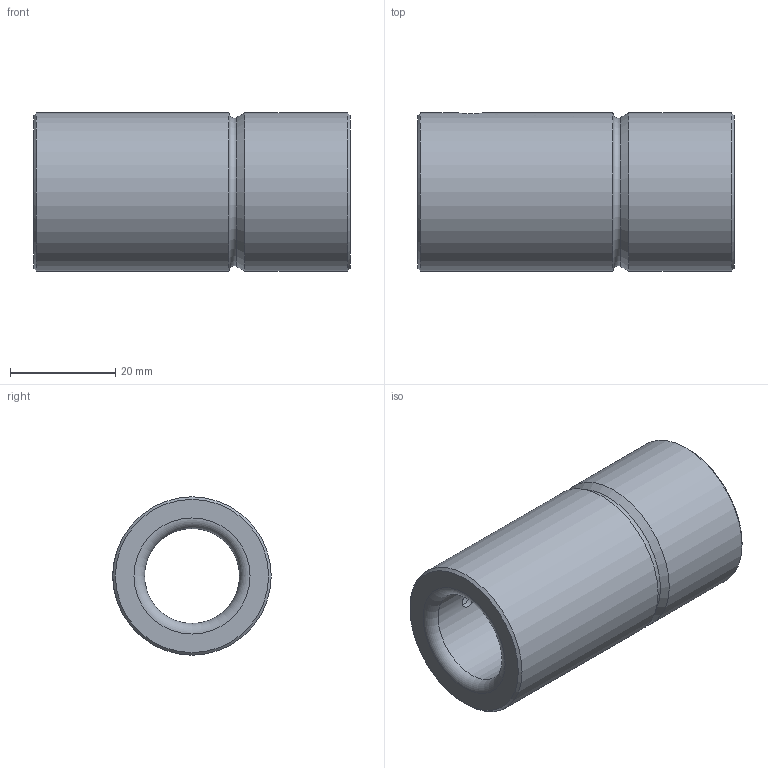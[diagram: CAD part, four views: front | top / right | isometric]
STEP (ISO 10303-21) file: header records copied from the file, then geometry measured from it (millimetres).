
FILE_DESCRIPTION( ( 'STEP AP214' ), '1' );
FILE_NAME( 'p:/temp/worker_27/temp/exporttempdir_1480_351_UcH08/format_0/WZ 4068 18 x 60.stp', '2020-11-21T19:59:24', ( 'License CC BY-ND 4.0' ), ( 'CADENAS' ), ' ', 'PARTsolutions', ' ' );
FILE_SCHEMA( ( 'AUTOMOTIVE_DESIGN { 1 0 10303 214 1 1 1 1 }' ) );
Length unit declared in the file: millimetre
Products named in the file (1): _WZ 4068 18 x 60
Bounding box: 60 x 30.04 x 30.04 mm (x, y, z)
Volume: 25337.5 mm3; surface area: 10145.8 mm2
Topology: 1 solids, 1 shells, 16 faces, 29 edges, 17 vertices
Faces by surface type: cylinder 6, cone 4, plane 4, torus 2
Full cylindrical faces by diameter (mm): 3 x1, 5 x1, 18 x1, 20 x1, 30.04 x2
Entity records: 588 total; most frequent: CARTESIAN_POINT 159, DIRECTION 64, EDGE_LOOP 34, ORIENTED_EDGE 34, AXIS2_PLACEMENT_3D 32, FACE_OUTER_BOUND 24, EDGE_CURVE 17, VERTEX_POINT 17
